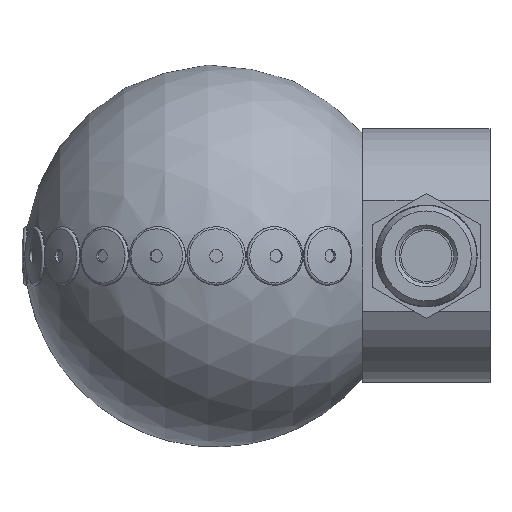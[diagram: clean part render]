
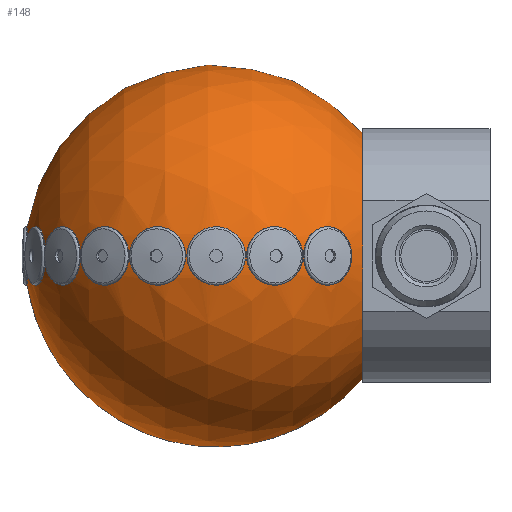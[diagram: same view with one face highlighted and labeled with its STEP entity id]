
A CAD part, left-side view. The second image highlights one B-rep face of the part: STEP entity #148.
In plain terms, the highlighted spherical face has radius 30 mm.
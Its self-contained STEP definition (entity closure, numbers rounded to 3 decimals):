
#148 = ADVANCED_FACE( '', ( #408, #409, #410, #411, #412, #413, #414, #415, #416, #417, #418, #419, #420, #421, #422, #423 ), #424, .T. );
#408 = FACE_OUTER_BOUND( '', #870, .T. );
#409 = FACE_BOUND( '', #871, .T. );
#410 = FACE_BOUND( '', #872, .T. );
#411 = FACE_BOUND( '', #873, .T. );
#412 = FACE_BOUND( '', #874, .T. );
#413 = FACE_BOUND( '', #875, .T. );
#414 = FACE_BOUND( '', #876, .T. );
#415 = FACE_BOUND( '', #877, .T. );
#416 = FACE_OUTER_BOUND( '', #878, .T. );
#417 = FACE_BOUND( '', #879, .T. );
#418 = FACE_BOUND( '', #880, .T. );
#419 = FACE_BOUND( '', #881, .T. );
#420 = FACE_BOUND( '', #882, .T. );
#421 = FACE_BOUND( '', #883, .T. );
#422 = FACE_BOUND( '', #884, .T. );
#423 = FACE_BOUND( '', #885, .T. );
#424 = SPHERICAL_SURFACE( '', #886, 30. );
#870 = EDGE_LOOP( '', ( #1332, #1333 ) );
#871 = EDGE_LOOP( '', ( #1334 ) );
#872 = EDGE_LOOP( '', ( #1335 ) );
#873 = EDGE_LOOP( '', ( #1336 ) );
#874 = EDGE_LOOP( '', ( #1337 ) );
#875 = EDGE_LOOP( '', ( #1338 ) );
#876 = EDGE_LOOP( '', ( #1339 ) );
#877 = EDGE_LOOP( '', ( #1340 ) );
#878 = EDGE_LOOP( '', ( #1341 ) );
#879 = EDGE_LOOP( '', ( #1342 ) );
#880 = EDGE_LOOP( '', ( #1343 ) );
#881 = EDGE_LOOP( '', ( #1344 ) );
#882 = EDGE_LOOP( '', ( #1345 ) );
#883 = EDGE_LOOP( '', ( #1346 ) );
#884 = EDGE_LOOP( '', ( #1347 ) );
#885 = EDGE_LOOP( '', ( #1348 ) );
#886 = AXIS2_PLACEMENT_3D( '', #1349, #1350, #1351 );
#1332 = ORIENTED_EDGE( '', *, *, #2115, .T. );
#1333 = ORIENTED_EDGE( '', *, *, #2116, .T. );
#1334 = ORIENTED_EDGE( '', *, *, #2117, .T. );
#1335 = ORIENTED_EDGE( '', *, *, #2118, .T. );
#1336 = ORIENTED_EDGE( '', *, *, #2119, .T. );
#1337 = ORIENTED_EDGE( '', *, *, #2120, .T. );
#1338 = ORIENTED_EDGE( '', *, *, #2121, .T. );
#1339 = ORIENTED_EDGE( '', *, *, #2122, .T. );
#1340 = ORIENTED_EDGE( '', *, *, #2123, .T. );
#1341 = ORIENTED_EDGE( '', *, *, #2124, .T. );
#1342 = ORIENTED_EDGE( '', *, *, #2125, .T. );
#1343 = ORIENTED_EDGE( '', *, *, #2126, .T. );
#1344 = ORIENTED_EDGE( '', *, *, #2127, .T. );
#1345 = ORIENTED_EDGE( '', *, *, #2128, .T. );
#1346 = ORIENTED_EDGE( '', *, *, #2129, .T. );
#1347 = ORIENTED_EDGE( '', *, *, #2130, .T. );
#1348 = ORIENTED_EDGE( '', *, *, #2131, .T. );
#1349 = CARTESIAN_POINT( '', ( 83., 33., 0. ) );
#1350 = DIRECTION( '', ( 0., 1., 0. ) );
#1351 = DIRECTION( '', ( 1., 0., 0. ) );
#2115 = EDGE_CURVE( '', #2395, #2396, #2397, .T. );
#2116 = EDGE_CURVE( '', #2396, #2395, #2398, .T. );
#2117 = EDGE_CURVE( '', #2399, #2399, #2400, .T. );
#2118 = EDGE_CURVE( '', #2401, #2401, #2402, .T. );
#2119 = EDGE_CURVE( '', #2403, #2403, #2404, .T. );
#2120 = EDGE_CURVE( '', #2405, #2405, #2406, .T. );
#2121 = EDGE_CURVE( '', #2407, #2407, #2408, .T. );
#2122 = EDGE_CURVE( '', #2409, #2409, #2410, .T. );
#2123 = EDGE_CURVE( '', #2411, #2411, #2412, .T. );
#2124 = EDGE_CURVE( '', #2413, #2413, #2414, .T. );
#2125 = EDGE_CURVE( '', #2415, #2415, #2416, .T. );
#2126 = EDGE_CURVE( '', #2417, #2417, #2418, .T. );
#2127 = EDGE_CURVE( '', #2419, #2419, #2420, .T. );
#2128 = EDGE_CURVE( '', #2421, #2421, #2422, .T. );
#2129 = EDGE_CURVE( '', #2423, #2423, #2424, .T. );
#2130 = EDGE_CURVE( '', #2425, #2425, #2426, .T. );
#2131 = EDGE_CURVE( '', #2427, #2427, #2428, .T. );
#2395 = VERTEX_POINT( '', #2802 );
#2396 = VERTEX_POINT( '', #2803 );
#2397 = CIRCLE( '', #2804, 19.261 );
#2398 = CIRCLE( '', #2805, 19.261 );
#2399 = VERTEX_POINT( '', #2806 );
#2400 = CIRCLE( '', #2807, 4.6 );
#2401 = VERTEX_POINT( '', #2808 );
#2402 = CIRCLE( '', #2809, 4.6 );
#2403 = VERTEX_POINT( '', #2810 );
#2404 = CIRCLE( '', #2811, 4.6 );
#2405 = VERTEX_POINT( '', #2812 );
#2406 = CIRCLE( '', #2813, 4.6 );
#2407 = VERTEX_POINT( '', #2814 );
#2408 = CIRCLE( '', #2815, 4.6 );
#2409 = VERTEX_POINT( '', #2816 );
#2410 = CIRCLE( '', #2817, 4.6 );
#2411 = VERTEX_POINT( '', #2818 );
#2412 = CIRCLE( '', #2819, 4.6 );
#2413 = VERTEX_POINT( '', #2820 );
#2414 = CIRCLE( '', #2821, 4.6 );
#2415 = VERTEX_POINT( '', #2822 );
#2416 = CIRCLE( '', #2823, 4.6 );
#2417 = VERTEX_POINT( '', #2824 );
#2418 = CIRCLE( '', #2825, 4.6 );
#2419 = VERTEX_POINT( '', #2826 );
#2420 = CIRCLE( '', #2827, 4.6 );
#2421 = VERTEX_POINT( '', #2828 );
#2422 = CIRCLE( '', #2829, 4.6 );
#2423 = VERTEX_POINT( '', #2830 );
#2424 = CIRCLE( '', #2831, 4.6 );
#2425 = VERTEX_POINT( '', #2832 );
#2426 = CIRCLE( '', #2833, 4.6 );
#2427 = VERTEX_POINT( '', #2834 );
#2428 = CIRCLE( '', #2835, 4.6 );
#2802 = CARTESIAN_POINT( '', ( 65., 10., 6.856 ) );
#2803 = CARTESIAN_POINT( '', ( 65., 10., -6.856 ) );
#2804 = AXIS2_PLACEMENT_3D( '', #3247, #3248, #3249 );
#2805 = AXIS2_PLACEMENT_3D( '', #3250, #3251, #3252 );
#2806 = CARTESIAN_POINT( '', ( 56.313, 19.296, 0. ) );
#2807 = AXIS2_PLACEMENT_3D( '', #3253, #3254, #3255 );
#2808 = CARTESIAN_POINT( '', ( 53.384, 28.214, 0. ) );
#2809 = AXIS2_PLACEMENT_3D( '', #3256, #3257, #3258 );
#2810 = CARTESIAN_POINT( '', ( 53.355, 33., -4.6 ) );
#2811 = AXIS2_PLACEMENT_3D( '', #3259, #3260, #3261 );
#2812 = CARTESIAN_POINT( '', ( 56.227, 46.536, 0. ) );
#2813 = AXIS2_PLACEMENT_3D( '', #3262, #3263, #3264 );
#2814 = CARTESIAN_POINT( '', ( 61.72, 54.147, 0. ) );
#2815 = AXIS2_PLACEMENT_3D( '', #3265, #3266, #3267 );
#2816 = CARTESIAN_POINT( '', ( 69.296, 59.687, 0. ) );
#2817 = AXIS2_PLACEMENT_3D( '', #3268, #3269, #3270 );
#2818 = CARTESIAN_POINT( '', ( 78.214, 62.616, 0. ) );
#2819 = AXIS2_PLACEMENT_3D( '', #3271, #3272, #3273 );
#2820 = CARTESIAN_POINT( '', ( 83., 62.645, -4.6 ) );
#2821 = AXIS2_PLACEMENT_3D( '', #3274, #3275, #3276 );
#2822 = CARTESIAN_POINT( '', ( 96.536, 59.773, 0. ) );
#2823 = AXIS2_PLACEMENT_3D( '', #3277, #3278, #3279 );
#2824 = CARTESIAN_POINT( '', ( 104.147, 54.28, 0. ) );
#2825 = AXIS2_PLACEMENT_3D( '', #3280, #3281, #3282 );
#2826 = CARTESIAN_POINT( '', ( 109.687, 46.704, 0. ) );
#2827 = AXIS2_PLACEMENT_3D( '', #3283, #3284, #3285 );
#2828 = CARTESIAN_POINT( '', ( 112.616, 37.786, 0. ) );
#2829 = AXIS2_PLACEMENT_3D( '', #3286, #3287, #3288 );
#2830 = CARTESIAN_POINT( '', ( 112.645, 33., 4.6 ) );
#2831 = AXIS2_PLACEMENT_3D( '', #3289, #3290, #3291 );
#2832 = CARTESIAN_POINT( '', ( 109.773, 19.464, 0. ) );
#2833 = AXIS2_PLACEMENT_3D( '', #3292, #3293, #3294 );
#2834 = CARTESIAN_POINT( '', ( 104.28, 11.853, 0. ) );
#2835 = AXIS2_PLACEMENT_3D( '', #3295, #3296, #3297 );
#3247 = CARTESIAN_POINT( '', ( 83., 10., 0. ) );
#3248 = DIRECTION( '', ( 0., 1., 0. ) );
#3249 = DIRECTION( '', ( 0., 0., 1. ) );
#3250 = CARTESIAN_POINT( '', ( 83., 10., 0. ) );
#3251 = DIRECTION( '', ( 0., 1., 0. ) );
#3252 = DIRECTION( '', ( 0., 0., 1. ) );
#3253 = CARTESIAN_POINT( '', ( 59.017, 15.575, 0. ) );
#3254 = DIRECTION( '', ( 0.809, 0.588, 0. ) );
#3255 = DIRECTION( '', ( -0.588, 0.809, 0. ) );
#3256 = CARTESIAN_POINT( '', ( 54.806, 23.839, 0. ) );
#3257 = DIRECTION( '', ( 0.951, 0.309, 0. ) );
#3258 = DIRECTION( '', ( -0.309, 0.951, 0. ) );
#3259 = CARTESIAN_POINT( '', ( 53.355, 33., 0. ) );
#3260 = DIRECTION( '', ( 1., 0., 0. ) );
#3261 = DIRECTION( '', ( 0., 0., -1. ) );
#3262 = CARTESIAN_POINT( '', ( 54.806, 42.161, 0. ) );
#3263 = DIRECTION( '', ( 0.951, -0.309, 0. ) );
#3264 = DIRECTION( '', ( 0.309, 0.951, 0. ) );
#3265 = CARTESIAN_POINT( '', ( 59.017, 50.425, 0. ) );
#3266 = DIRECTION( '', ( 0.809, -0.588, 0. ) );
#3267 = DIRECTION( '', ( 0.588, 0.809, 0. ) );
#3268 = CARTESIAN_POINT( '', ( 65.575, 56.983, 0. ) );
#3269 = DIRECTION( '', ( 0.588, -0.809, 0. ) );
#3270 = DIRECTION( '', ( 0.809, 0.588, 0. ) );
#3271 = CARTESIAN_POINT( '', ( 73.839, 61.194, 0. ) );
#3272 = DIRECTION( '', ( 0.309, -0.951, 0. ) );
#3273 = DIRECTION( '', ( 0.951, 0.309, 0. ) );
#3274 = CARTESIAN_POINT( '', ( 83., 62.645, 0. ) );
#3275 = DIRECTION( '', ( 0., -1., 0. ) );
#3276 = DIRECTION( '', ( 0., 0., -1. ) );
#3277 = CARTESIAN_POINT( '', ( 92.161, 61.194, 0. ) );
#3278 = DIRECTION( '', ( -0.309, -0.951, 0. ) );
#3279 = DIRECTION( '', ( 0.951, -0.309, 0. ) );
#3280 = CARTESIAN_POINT( '', ( 100.425, 56.983, 0. ) );
#3281 = DIRECTION( '', ( -0.588, -0.809, 0. ) );
#3282 = DIRECTION( '', ( 0.809, -0.588, 0. ) );
#3283 = CARTESIAN_POINT( '', ( 106.983, 50.425, 0. ) );
#3284 = DIRECTION( '', ( -0.809, -0.588, 0. ) );
#3285 = DIRECTION( '', ( 0.588, -0.809, 0. ) );
#3286 = CARTESIAN_POINT( '', ( 111.194, 42.161, 0. ) );
#3287 = DIRECTION( '', ( -0.951, -0.309, 0. ) );
#3288 = DIRECTION( '', ( 0.309, -0.951, 0. ) );
#3289 = CARTESIAN_POINT( '', ( 112.645, 33., 0. ) );
#3290 = DIRECTION( '', ( -1., 0., 0. ) );
#3291 = DIRECTION( '', ( 0., 0., 1. ) );
#3292 = CARTESIAN_POINT( '', ( 111.194, 23.839, 0. ) );
#3293 = DIRECTION( '', ( -0.951, 0.309, 0. ) );
#3294 = DIRECTION( '', ( -0.309, -0.951, 0. ) );
#3295 = CARTESIAN_POINT( '', ( 106.983, 15.575, 0. ) );
#3296 = DIRECTION( '', ( -0.809, 0.588, 0. ) );
#3297 = DIRECTION( '', ( -0.588, -0.809, 0. ) );
